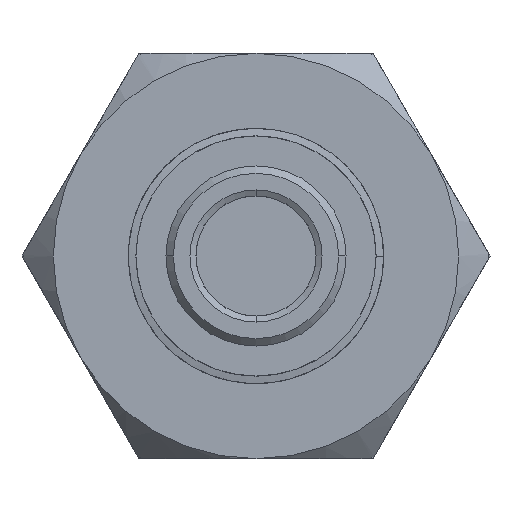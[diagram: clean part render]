
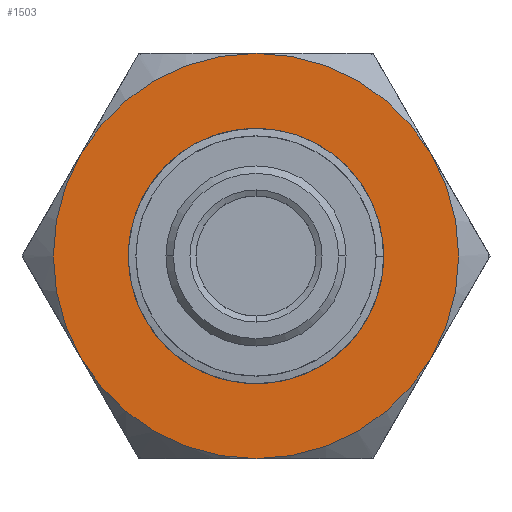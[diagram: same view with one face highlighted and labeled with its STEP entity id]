
A CAD part, front view. The second image highlights one B-rep face of the part: STEP entity #1503.
In plain terms, the highlighted planar face has unit normal (0, -1, 0).
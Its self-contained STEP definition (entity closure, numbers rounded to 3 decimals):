
#276 = EDGE_CURVE ( 'NONE', #5329, #7790, #6385, .T. ) ;
#367 = CARTESIAN_POINT ( 'NONE',  ( -11.177, -27.508, 64. ) ) ;
#586 = DIRECTION ( 'NONE',  ( 0., 0., 1. ) ) ;
#601 = ORIENTED_EDGE ( 'NONE', *, *, #9021, .F. ) ;
#646 = VERTEX_POINT ( 'NONE', #1626 ) ;
#765 = CARTESIAN_POINT ( 'NONE',  ( -11.177, -27.508, 64. ) ) ;
#1185 = ORIENTED_EDGE ( 'NONE', *, *, #10384, .F. ) ;
#1336 = DIRECTION ( 'NONE',  ( 0., 0., 1. ) ) ;
#1503 = ADVANCED_FACE ( 'NONE', ( #11455, #4896 ), #5773, .F. ) ;
#1626 = CARTESIAN_POINT ( 'NONE',  ( -22.869, -27.508, 57.25 ) ) ;
#1666 = ORIENTED_EDGE ( 'NONE', *, *, #9644, .F. ) ;
#1700 = CARTESIAN_POINT ( 'NONE',  ( -11.177, -27.508, 64. ) ) ;
#1748 = DIRECTION ( 'NONE',  ( 0., 0., 1. ) ) ;
#1938 = VERTEX_POINT ( 'NONE', #5559 ) ;
#2024 = CIRCLE ( 'NONE', #3217, 13.5 ) ;
#2034 = CIRCLE ( 'NONE', #4582, 8.25 ) ;
#2077 = CARTESIAN_POINT ( 'NONE',  ( 0.514, -27.508, 57.25 ) ) ;
#2130 = ORIENTED_EDGE ( 'NONE', *, *, #9182, .F. ) ;
#2172 = AXIS2_PLACEMENT_3D ( 'NONE', #9480, #4242, #10333 ) ;
#2233 = AXIS2_PLACEMENT_3D ( 'NONE', #9542, #4304, #10386 ) ;
#2663 = DIRECTION ( 'NONE',  ( 0., 0., 1. ) ) ;
#2953 = CIRCLE ( 'NONE', #8121, 13.5 ) ;
#3121 = ORIENTED_EDGE ( 'NONE', *, *, #11063, .F. ) ;
#3217 = AXIS2_PLACEMENT_3D ( 'NONE', #765, #7118, #1748 ) ;
#3266 = VERTEX_POINT ( 'NONE', #10361 ) ;
#4242 = DIRECTION ( 'NONE',  ( 0., 1., 0. ) ) ;
#4264 = CARTESIAN_POINT ( 'NONE',  ( 0.514, -27.508, 70.75 ) ) ;
#4304 = DIRECTION ( 'NONE',  ( 0., 1., 0. ) ) ;
#4582 = AXIS2_PLACEMENT_3D ( 'NONE', #11185, #6025, #586 ) ;
#4645 = EDGE_CURVE ( 'NONE', #7790, #3266, #2953, .T. ) ;
#4654 = ORIENTED_EDGE ( 'NONE', *, *, #7318, .F. ) ;
#4896 = FACE_OUTER_BOUND ( 'NONE', #11268, .T. ) ;
#4958 = DIRECTION ( 'NONE',  ( 0., 1., 0. ) ) ;
#5329 = VERTEX_POINT ( 'NONE', #4264 ) ;
#5371 = AXIS2_PLACEMENT_3D ( 'NONE', #6542, #9693, #10306 ) ;
#5559 = CARTESIAN_POINT ( 'NONE',  ( -11.177, -27.508, 77.5 ) ) ;
#5570 = DIRECTION ( 'NONE',  ( 0., 0., 1. ) ) ;
#5582 = DIRECTION ( 'NONE',  ( 0., 1., 0. ) ) ;
#5584 = CARTESIAN_POINT ( 'NONE',  ( -24.839, -27.508, 50.338 ) ) ;
#5597 = VERTEX_POINT ( 'NONE', #9090 ) ;
#5661 = CARTESIAN_POINT ( 'NONE',  ( -11.177, -27.508, 55.75 ) ) ;
#5773 = PLANE ( 'NONE',  #8776 ) ;
#6025 = DIRECTION ( 'NONE',  ( 0., -1., 0. ) ) ;
#6136 = ORIENTED_EDGE ( 'NONE', *, *, #276, .F. ) ;
#6385 = CIRCLE ( 'NONE', #5371, 13.5 ) ;
#6542 = CARTESIAN_POINT ( 'NONE',  ( -11.177, -27.508, 64. ) ) ;
#6733 = DIRECTION ( 'NONE',  ( 0., 1., 0. ) ) ;
#7118 = DIRECTION ( 'NONE',  ( 0., 1., 0. ) ) ;
#7221 = CIRCLE ( 'NONE', #7231, 8.25 ) ;
#7231 = AXIS2_PLACEMENT_3D ( 'NONE', #1700, #7970, #2663 ) ;
#7318 = EDGE_CURVE ( 'NONE', #10290, #5597, #7221, .T. ) ;
#7790 = VERTEX_POINT ( 'NONE', #2077 ) ;
#7970 = DIRECTION ( 'NONE',  ( 0., -1., 0. ) ) ;
#8121 = AXIS2_PLACEMENT_3D ( 'NONE', #367, #6733, #1336 ) ;
#8776 = AXIS2_PLACEMENT_3D ( 'NONE', #5584, #5582, #5570 ) ;
#8897 = ORIENTED_EDGE ( 'NONE', *, *, #4645, .F. ) ;
#9021 = EDGE_CURVE ( 'NONE', #3266, #646, #11318, .T. ) ;
#9090 = CARTESIAN_POINT ( 'NONE',  ( -11.177, -27.508, 72.25 ) ) ;
#9182 = EDGE_CURVE ( 'NONE', #5597, #10290, #2034, .T. ) ;
#9195 = VERTEX_POINT ( 'NONE', #9513 ) ;
#9480 = CARTESIAN_POINT ( 'NONE',  ( -11.177, -27.508, 64. ) ) ;
#9499 = CIRCLE ( 'NONE', #2233, 13.5 ) ;
#9513 = CARTESIAN_POINT ( 'NONE',  ( -22.869, -27.508, 70.75 ) ) ;
#9542 = CARTESIAN_POINT ( 'NONE',  ( -11.177, -27.508, 64. ) ) ;
#9644 = EDGE_CURVE ( 'NONE', #646, #9195, #9499, .T. ) ;
#9693 = DIRECTION ( 'NONE',  ( 0., 1., 0. ) ) ;
#9906 = EDGE_LOOP ( 'NONE', ( #2130, #4654 ) ) ;
#10151 = CARTESIAN_POINT ( 'NONE',  ( -11.177, -27.508, 64. ) ) ;
#10245 = AXIS2_PLACEMENT_3D ( 'NONE', #10151, #4958, #10986 ) ;
#10290 = VERTEX_POINT ( 'NONE', #5661 ) ;
#10306 = DIRECTION ( 'NONE',  ( 0., 0., 1. ) ) ;
#10333 = DIRECTION ( 'NONE',  ( 0., 0., 1. ) ) ;
#10361 = CARTESIAN_POINT ( 'NONE',  ( -11.177, -27.508, 50.5 ) ) ;
#10384 = EDGE_CURVE ( 'NONE', #9195, #1938, #2024, .T. ) ;
#10386 = DIRECTION ( 'NONE',  ( 0., 0., 1. ) ) ;
#10924 = CIRCLE ( 'NONE', #10245, 13.5 ) ;
#10986 = DIRECTION ( 'NONE',  ( 0., 0., 1. ) ) ;
#11063 = EDGE_CURVE ( 'NONE', #1938, #5329, #10924, .T. ) ;
#11185 = CARTESIAN_POINT ( 'NONE',  ( -11.177, -27.508, 64. ) ) ;
#11268 = EDGE_LOOP ( 'NONE', ( #6136, #3121, #1185, #1666, #601, #8897 ) ) ;
#11318 = CIRCLE ( 'NONE', #2172, 13.5 ) ;
#11455 = FACE_BOUND ( 'NONE', #9906, .T. ) ;
